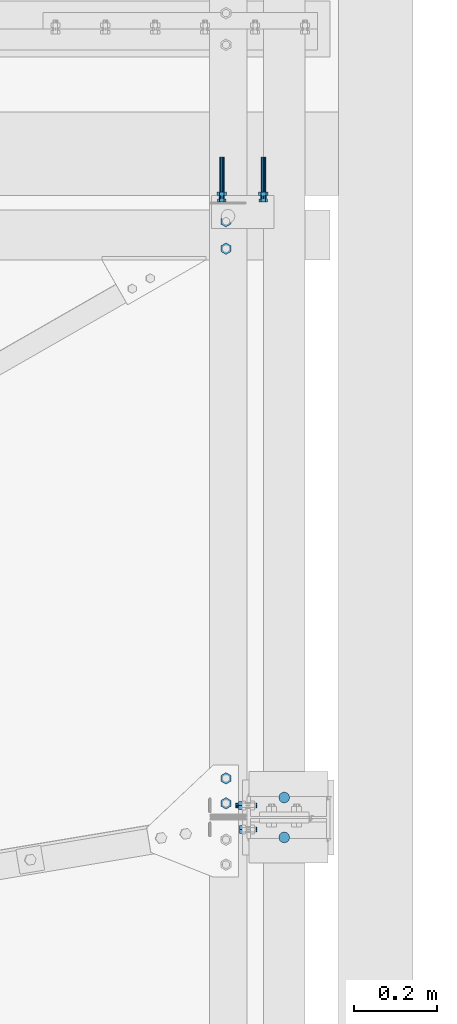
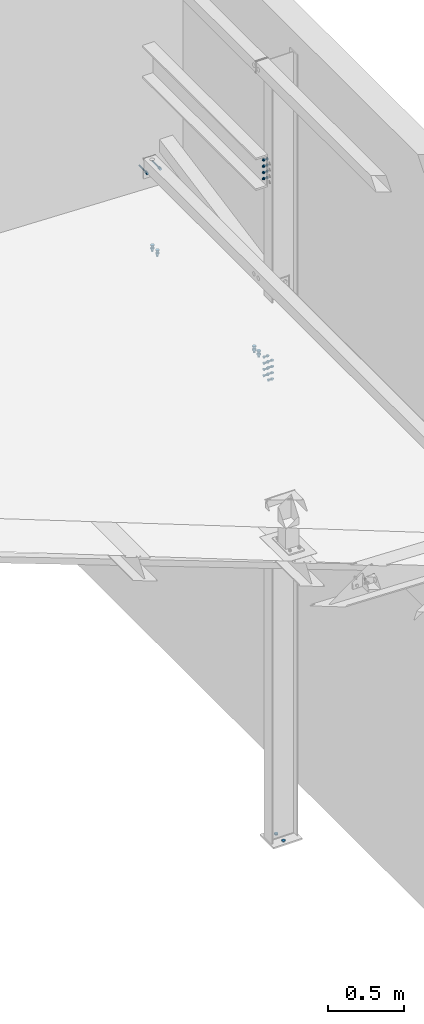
# One storey, part 398 of 3134: 7 mechanical fasteners, 3 elements without a shape of their own.
"""IFC2X3 building model written with IfcOpenShell, lengths in millimetres."""

from ifc_helpers import new_model, si_unit, frame, origin_with_axes, place, context, subcontext, project, spatial, faceted_brep, source, transform, mapped, material, type_object, element, aggregate, save


model = new_model("IFC2X3")

# Units and contexts
model_context = context("Model", 3, precision=1e-05, world=origin_with_axes())
body_context = subcontext(model_context, "Body", "Model", "MODEL_VIEW")
ifc_project = project(units=[si_unit("LENGTHUNIT", "METRE", prefix="MILLI"), si_unit("AREAUNIT", "SQUARE_METRE"), si_unit("VOLUMEUNIT", "CUBIC_METRE"), si_unit("MASSUNIT", "GRAM", prefix="KILO"), si_unit("TIMEUNIT", "SECOND"), si_unit("PLANEANGLEUNIT", "RADIAN"), si_unit("SOLIDANGLEUNIT", "STERADIAN"), si_unit("THERMODYNAMICTEMPERATUREUNIT", "DEGREE_CELSIUS"), si_unit("LUMINOUSINTENSITYUNIT", "LUMEN")], contexts=[model_context])

# Site, building, storey
site_placement = place(None, origin_with_axes())
site = spatial("IfcSite", under=ifc_project, at=site_placement, CompositionType="ELEMENT")
building_placement = place(site_placement, origin_with_axes())
building = spatial("IfcBuilding", under=site, at=building_placement, Name="Undefined", CompositionType="ELEMENT")
storey_placement = place(building_placement, origin_with_axes())
storey = spatial("IfcBuildingStorey", under=building, at=storey_placement, Name="Undefined", CompositionType="ELEMENT", Elevation=0.0)

# Assembly, mechanical fastener
assembly_1_placement = place(storey_placement, origin_with_axes())
assembly_1 = element("IfcElementAssembly", 1, at=assembly_1_placement, inside=storey, AssemblyPlace="NOTDEFINED", PredefinedType="RIGID_FRAME")
ifc_material_1 = material(Name="HILTI-HSA")
mechanical_fastener_type = type_object("IfcMechanicalFastenerType", Name="Bolt assembly")
shared_shape_1 = source(origin_with_axes(), body_context, "Body", "Brep", [
    faceted_brep([(10.3923048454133, -15.92, 0.0), (5.19615242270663, -15.92, 9.0), (-5.19615242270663, -15.92, 9.0), (-10.3923048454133, -15.92, 1.27269028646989e-15), (-5.19615242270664, -15.92, -9.0), (5.19615242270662, -15.92, -9.0), (5.19615242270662, -8.0, -9.0), (-5.19615242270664, -8.0, -9.0), (-10.3923048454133, -8.0, 1.27269028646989e-15), (-5.19615242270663, -8.0, 9.0), (5.19615242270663, -8.0, 9.0), (10.3923048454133, -8.0, 0.0), (6.0, -8.0, 0.0), (5.19615242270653, -8.0, 3.00000000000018), (2.99999999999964, -8.0, 5.19615242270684), (-6.21801588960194e-13, -8.0, 6.0), (-3.00000000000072, -8.0, 5.19615242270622), (-5.19615242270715, -8.0, 2.9999999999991), (-6.0, -8.0, -1.24360317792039e-12), (-5.19615242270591, -8.0, -3.00000000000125), (-2.99999999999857, -8.0, -5.19615242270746), (1.85874342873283e-12, -8.0, -6.0), (3.00000000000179, -8.0, -5.1961524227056), (5.19615242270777, -8.0, -2.99999999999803), (5.19615242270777, 92.0, -2.99999999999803), (3.00000000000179, 92.0, -5.1961524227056), (1.85874342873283e-12, 92.0, -6.0), (-2.99999999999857, 92.0, -5.19615242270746), (-5.19615242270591, 92.0, -3.00000000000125), (-6.0, 92.0, -1.24360317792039e-12), (-5.19615242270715, 92.0, 2.9999999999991), (-3.00000000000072, 92.0, 5.19615242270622), (-6.21801588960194e-13, 92.0, 6.0), (2.99999999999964, 92.0, 5.19615242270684), (5.19615242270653, 92.0, 3.00000000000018), (6.0, 92.0, 0.0), (11.5008173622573, 0.0, 0.0), (5.75040868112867, 0.0, 9.96), (-5.75040868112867, 0.0, 9.96), (-11.5008173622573, 0.0, 1.40844391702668e-15), (-5.75040868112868, 0.0, -9.96), (5.75040868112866, 0.0, -9.96), (5.75040868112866, 7.92, -9.96), (-5.75040868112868, 7.92, -9.96), (-11.5008173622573, 7.92, 1.40844391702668e-15), (-5.75040868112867, 7.92, 9.96), (5.75040868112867, 7.92, 9.96), (11.5008173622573, 7.92, 0.0)], [[[0, 1, 2, 3, 4, 5]], [[6, 7, 8, 9, 10, 11]], [[0, 11, 10, 1]], [[1, 10, 9, 2]], [[2, 9, 8, 3]], [[3, 8, 7, 4]], [[4, 7, 6, 5]], [[5, 6, 11, 0]], [[12, 13, 14, 15, 16, 17, 18, 19, 20, 21, 22, 23]], [[24, 25, 26, 27, 28, 29, 30, 31, 32, 33, 34, 35]], [[12, 35, 34, 13]], [[13, 34, 33, 14]], [[14, 33, 32, 15]], [[15, 32, 31, 16]], [[16, 31, 30, 17]], [[17, 30, 29, 18]], [[18, 29, 28, 19]], [[19, 28, 27, 20]], [[20, 27, 26, 21]], [[21, 26, 25, 22]], [[22, 25, 24, 23]], [[23, 24, 35, 12]], [[36, 37, 38, 39, 40, 41]], [[42, 43, 44, 45, 46, 47]], [[36, 47, 46, 37]], [[37, 46, 45, 38]], [[38, 45, 44, 39]], [[39, 44, 43, 40]], [[40, 43, 42, 41]], [[41, 42, 47, 36]]]),
    faceted_brep([(7.0, -8.0, 0.0), (6.06217782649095, -8.0, 3.50000000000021), (3.49999999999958, -8.0, 6.06217782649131), (-7.25435187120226e-13, -8.0, 7.0), (-3.50000000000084, -8.0, 6.06217782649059), (-6.06217782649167, -8.0, 3.49999999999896), (-7.0, -8.0, -1.45087037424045e-12), (-6.06217782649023, -8.0, -3.50000000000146), (-3.49999999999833, -8.0, -6.06217782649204), (2.1685340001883e-12, -8.0, -7.0), (3.50000000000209, -8.0, -6.06217782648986), (6.0621778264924, -8.0, -3.4999999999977), (6.0621778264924, 0.0999999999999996, -3.4999999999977), (3.50000000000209, 0.0999999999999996, -6.06217782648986), (2.1685340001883e-12, 0.0999999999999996, -7.0), (-3.49999999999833, 0.0999999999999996, -6.06217782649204), (-6.06217782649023, 0.0999999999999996, -3.50000000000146), (-7.0, 0.0999999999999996, -1.45087037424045e-12), (-6.06217782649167, 0.0999999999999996, 3.49999999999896), (-3.50000000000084, 0.0999999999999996, 6.06217782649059), (-7.25435187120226e-13, 0.0999999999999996, 7.0), (3.49999999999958, 0.0999999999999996, 6.06217782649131), (6.06217782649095, 0.0999999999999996, 3.50000000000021), (7.0, 0.0999999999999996, 0.0)], [[[0, 1, 2, 3, 4, 5, 6, 7, 8, 9, 10, 11]], [[12, 13, 14, 15, 16, 17, 18, 19, 20, 21, 22, 23]], [[0, 23, 22, 1]], [[1, 22, 21, 2]], [[2, 21, 20, 3]], [[3, 20, 19, 4]], [[4, 19, 18, 5]], [[5, 18, 17, 6]], [[6, 17, 16, 7]], [[7, 16, 15, 8]], [[8, 15, 14, 9]], [[9, 14, 13, 10]], [[10, 13, 12, 11]], [[11, 12, 23, 0]]]),
])
mechanical_fastener_1_placement = place(assembly_1_placement, frame((79075.0, 26145.0, 4086.04), z_axis=(0.0, 0.0, 1.0), x_axis=(1.0, 0.0, 0.0)))
mechanical_fastener_1 = element("IfcMechanicalFastener", 2, at=mechanical_fastener_1_placement, type_object=mechanical_fastener_type, material=ifc_material_1, Name="Bolt assembly", NominalDiameter=12.0, NominalLength=100.0, context=body_context, shape_type="MappedRepresentation", body=[
    mapped(shared_shape_1, transform((0.0, 0.0, 0.0))),
    mapped(shared_shape_1, transform((100.0, 0.0, 0.0))),
])
aggregate(assembly_1, [mechanical_fastener_1])

# Assembly, mechanical fasteners
assembly_2_placement = place(storey_placement, origin_with_axes())
assembly_2 = element("IfcElementAssembly", 3, at=assembly_2_placement, inside=storey, Name="IPE200", AssemblyPlace="NOTDEFINED", PredefinedType="RIGID_FRAME")
ifc_material_2 = material(Name="8.8")
shared_shape_2 = source(origin_with_axes(), body_context, "Body", "Brep", [
    faceted_brep([(13.0, 0.0, 0.0), (11.2583302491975, 0.0, 6.50000000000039), (6.49999999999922, 0.0, 11.2583302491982), (-1.34723677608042e-12, 0.0, 13.0), (-6.50000000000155, 0.0, 11.2583302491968), (-11.2583302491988, 0.0, 6.49999999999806), (-13.0, 0.0, -2.69447355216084e-12), (-11.2583302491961, 0.0, -6.50000000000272), (-6.4999999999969, 0.0, -11.2583302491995), (4.02727742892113e-12, 0.0, -13.0), (6.50000000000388, 0.0, -11.2583302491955), (11.2583302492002, 0.0, -6.49999999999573), (11.2583302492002, 12.1, -6.49999999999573), (6.50000000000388, 12.1, -11.2583302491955), (4.02727742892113e-12, 12.1, -13.0), (-6.4999999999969, 12.1, -11.2583302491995), (-11.2583302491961, 12.1, -6.50000000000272), (-13.0, 12.1, -2.69447355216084e-12), (-11.2583302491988, 12.1, 6.49999999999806), (-6.50000000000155, 12.1, 11.2583302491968), (-1.34723677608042e-12, 12.1, 13.0), (6.49999999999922, 12.1, 11.2583302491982), (11.2583302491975, 12.1, 6.50000000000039), (13.0, 12.1, 0.0)], [[[0, 1, 2, 3, 4, 5, 6, 7, 8, 9, 10, 11]], [[12, 13, 14, 15, 16, 17, 18, 19, 20, 21, 22, 23]], [[0, 23, 22, 1]], [[1, 22, 21, 2]], [[2, 21, 20, 3]], [[3, 20, 19, 4]], [[4, 19, 18, 5]], [[5, 18, 17, 6]], [[6, 17, 16, 7]], [[7, 16, 15, 8]], [[8, 15, 14, 9]], [[9, 14, 13, 10]], [[10, 13, 12, 11]], [[11, 12, 23, 0]]]),
])
mechanical_fastener_2_placement = place(assembly_2_placement, frame((79225.0, 24650.0, -400.0), z_axis=(0.0, -1.0, 0.0), x_axis=(1.0, 0.0, 0.0)))
mechanical_fastener_2 = element("IfcMechanicalFastener", 4, at=mechanical_fastener_2_placement, type_object=mechanical_fastener_type, material=ifc_material_2, Name="Bolt assembly", NominalDiameter=24.0, NominalLength=12.0, context=body_context, shape_type="MappedRepresentation", body=[
    mapped(shared_shape_2, transform((0.0, 0.0, -48.0))),
    mapped(shared_shape_2, transform((0.0, 0.0, 48.0))),
])
shared_shape_3 = source(origin_with_axes(), body_context, "Body", "Brep", [
    faceted_brep([(10.9696551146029, -16.5, 0.0), (5.48482755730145, -16.5, 9.5), (-5.48482755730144, -16.5, 9.5), (-10.9696551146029, -16.5, 1.34339530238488e-15), (-5.48482755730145, -16.5, -9.5), (5.48482755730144, -16.5, -9.50000000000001), (5.48482755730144, -8.5, -9.50000000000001), (-5.48482755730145, -8.5, -9.5), (-10.9696551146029, -8.5, 1.34339530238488e-15), (-5.48482755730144, -8.5, 9.5), (5.48482755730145, -8.5, 9.5), (10.9696551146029, -8.5, 0.0), (6.0, -8.5, 0.0), (5.19615242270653, -8.5, 3.00000000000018), (2.99999999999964, -8.5, 5.19615242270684), (-6.21801588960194e-13, -8.5, 6.0), (-3.00000000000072, -8.5, 5.19615242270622), (-5.19615242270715, -8.5, 2.9999999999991), (-6.0, -8.5, -1.24360317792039e-12), (-5.19615242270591, -8.5, -3.00000000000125), (-2.99999999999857, -8.5, -5.19615242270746), (1.85874342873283e-12, -8.5, -6.0), (3.00000000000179, -8.5, -5.1961524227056), (5.19615242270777, -8.5, -2.99999999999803), (5.19615242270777, 26.5, -2.99999999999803), (3.00000000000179, 26.5, -5.1961524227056), (1.85874342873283e-12, 26.5, -6.0), (-2.99999999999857, 26.5, -5.19615242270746), (-5.19615242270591, 26.5, -3.00000000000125), (-6.0, 26.5, -1.24360317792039e-12), (-5.19615242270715, 26.5, 2.9999999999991), (-3.00000000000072, 26.5, 5.19615242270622), (-6.21801588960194e-13, 26.5, 6.0), (2.99999999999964, 26.5, 5.19615242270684), (5.19615242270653, 26.5, 3.00000000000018), (6.0, 26.5, 0.0), (10.9696551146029, 10.0, 0.0), (5.48482755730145, 10.0, 9.5), (-5.48482755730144, 10.0, 9.5), (-10.9696551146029, 10.0, 1.34339530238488e-15), (-5.48482755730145, 10.0, -9.5), (5.48482755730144, 10.0, -9.50000000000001), (5.48482755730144, 20.0, -9.50000000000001), (-5.48482755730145, 20.0, -9.5), (-10.9696551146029, 20.0, 1.34339530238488e-15), (-5.48482755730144, 20.0, 9.5), (5.48482755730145, 20.0, 9.5), (10.9696551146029, 20.0, 0.0)], [[[0, 1, 2, 3, 4, 5]], [[6, 7, 8, 9, 10, 11]], [[0, 11, 10, 1]], [[1, 10, 9, 2]], [[2, 9, 8, 3]], [[3, 8, 7, 4]], [[4, 7, 6, 5]], [[5, 6, 11, 0]], [[12, 13, 14, 15, 16, 17, 18, 19, 20, 21, 22, 23]], [[24, 25, 26, 27, 28, 29, 30, 31, 32, 33, 34, 35]], [[12, 35, 34, 13]], [[13, 34, 33, 14]], [[14, 33, 32, 15]], [[15, 32, 31, 16]], [[16, 31, 30, 17]], [[17, 30, 29, 18]], [[18, 29, 28, 19]], [[19, 28, 27, 20]], [[20, 27, 26, 21]], [[21, 26, 25, 22]], [[22, 25, 24, 23]], [[23, 24, 35, 12]], [[36, 37, 38, 39, 40, 41]], [[42, 43, 44, 45, 46, 47]], [[36, 47, 46, 37]], [[37, 46, 45, 38]], [[38, 45, 44, 39]], [[39, 44, 43, 40]], [[40, 43, 42, 41]], [[41, 42, 47, 36]]]),
    faceted_brep([(7.0, -0.1, 0.0), (6.06217782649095, -0.1, 3.50000000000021), (3.49999999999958, -0.1, 6.06217782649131), (-7.25435187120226e-13, -0.1, 7.0), (-3.50000000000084, -0.1, 6.06217782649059), (-6.06217782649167, -0.1, 3.49999999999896), (-7.0, -0.1, -1.45087037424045e-12), (-6.06217782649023, -0.1, -3.50000000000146), (-3.49999999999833, -0.1, -6.06217782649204), (2.1685340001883e-12, -0.1, -7.0), (3.50000000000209, -0.1, -6.06217782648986), (6.0621778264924, -0.1, -3.4999999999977), (6.0621778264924, 10.0, -3.4999999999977), (3.50000000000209, 10.0, -6.06217782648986), (2.1685340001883e-12, 10.0, -7.0), (-3.49999999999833, 10.0, -6.06217782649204), (-6.06217782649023, 10.0, -3.50000000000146), (-7.0, 10.0, -1.45087037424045e-12), (-6.06217782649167, 10.0, 3.49999999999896), (-3.50000000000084, 10.0, 6.06217782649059), (-7.25435187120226e-13, 10.0, 7.0), (3.49999999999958, 10.0, 6.06217782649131), (6.06217782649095, 10.0, 3.50000000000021), (7.0, 10.0, 0.0), (7.0, -8.4, 0.0), (6.06217782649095, -8.4, 3.50000000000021), (3.49999999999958, -8.4, 6.06217782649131), (-7.25435187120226e-13, -8.4, 7.0), (-3.50000000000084, -8.4, 6.06217782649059), (-6.06217782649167, -8.4, 3.49999999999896), (-7.0, -8.4, -1.45087037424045e-12), (-6.06217782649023, -8.4, -3.50000000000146), (-3.49999999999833, -8.4, -6.06217782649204), (2.1685340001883e-12, -8.4, -7.0), (3.50000000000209, -8.4, -6.06217782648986), (6.0621778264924, -8.4, -3.4999999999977), (6.0621778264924, 0.0999999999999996, -3.4999999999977), (3.50000000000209, 0.0999999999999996, -6.06217782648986), (2.1685340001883e-12, 0.0999999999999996, -7.0), (-3.49999999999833, 0.0999999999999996, -6.06217782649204), (-6.06217782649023, 0.0999999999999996, -3.50000000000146), (-7.0, 0.0999999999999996, -1.45087037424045e-12), (-6.06217782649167, 0.0999999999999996, 3.49999999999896), (-3.50000000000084, 0.0999999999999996, 6.06217782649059), (-7.25435187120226e-13, 0.0999999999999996, 7.0), (3.49999999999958, 0.0999999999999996, 6.06217782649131), (6.06217782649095, 0.0999999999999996, 3.50000000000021), (7.0, 0.0999999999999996, 0.0)], [[[0, 1, 2, 3, 4, 5, 6, 7, 8, 9, 10, 11]], [[12, 13, 14, 15, 16, 17, 18, 19, 20, 21, 22, 23]], [[0, 23, 22, 1]], [[1, 22, 21, 2]], [[2, 21, 20, 3]], [[3, 20, 19, 4]], [[4, 19, 18, 5]], [[5, 18, 17, 6]], [[6, 17, 16, 7]], [[7, 16, 15, 8]], [[8, 15, 14, 9]], [[9, 14, 13, 10]], [[10, 13, 12, 11]], [[11, 12, 23, 0]], [[24, 25, 26, 27, 28, 29, 30, 31, 32, 33, 34, 35]], [[36, 37, 38, 39, 40, 41, 42, 43, 44, 45, 46, 47]], [[24, 47, 46, 25]], [[25, 46, 45, 26]], [[26, 45, 44, 27]], [[27, 44, 43, 28]], [[28, 43, 42, 29]], [[29, 42, 41, 30]], [[30, 41, 40, 31]], [[31, 40, 39, 32]], [[32, 39, 38, 33]], [[33, 38, 37, 34]], [[34, 37, 36, 35]], [[35, 36, 47, 24]]]),
])
mechanical_fastener_3_placement = place(assembly_2_placement, frame((79135.0, 24679.0, 5059.384809), z_axis=(0.0, 1.0, 0.0), x_axis=(0.0, 0.0, -1.0)))
mechanical_fastener_3 = element("IfcMechanicalFastener", 5, at=mechanical_fastener_3_placement, type_object=mechanical_fastener_type, material=ifc_material_2, Name="Bolt assembly", NominalDiameter=12.0, NominalLength=35.0, context=body_context, shape_type="MappedRepresentation", body=[
    mapped(shared_shape_3, transform((0.0, 0.0, 0.0))),
    mapped(shared_shape_3, transform((50.000000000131, -1.38243194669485e-10, 0.0))),
    mapped(shared_shape_3, transform((100.0, 0.0, 0.0))),
    mapped(shared_shape_3, transform((150.0, 0.0, 0.0))),
])

assembly_3_placement = place(storey_placement, origin_with_axes())
assembly_3 = element("IfcElementAssembly", 6, at=assembly_3_placement, inside=storey, Name="UPN260", AssemblyPlace="NOTDEFINED", PredefinedType="RIGID_FRAME")
shared_shape_4 = source(origin_with_axes(), body_context, "Body", "Brep", [
    faceted_brep([(13.856406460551, -10.0, 0.0), (6.92820323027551, -10.0, 12.0), (-6.92820323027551, -10.0, 12.0), (-13.856406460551, -10.0, 1.69692038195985e-15), (-6.92820323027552, -10.0, -12.0), (6.9282032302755, -10.0, -12.0), (6.9282032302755, 0.0, -12.0), (-6.92820323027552, 0.0, -12.0), (-13.856406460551, 0.0, 1.69692038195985e-15), (-6.92820323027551, 0.0, 12.0), (6.92820323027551, 0.0, 12.0), (13.856406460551, 0.0, 0.0), (8.0, 0.0, 0.0), (6.92820323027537, 0.0, 4.00000000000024), (3.99999999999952, 0.0, 6.92820323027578), (-8.29068785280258e-13, 0.0, 8.0), (-4.00000000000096, 0.0, 6.92820323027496), (-6.9282032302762, 0.0, 3.99999999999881), (-8.0, 0.0, -1.65813757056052e-12), (-6.92820323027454, 0.0, -4.00000000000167), (-3.99999999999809, 0.0, -6.92820323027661), (2.47832457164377e-12, 0.0, -8.0), (4.00000000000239, 0.0, -6.92820323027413), (6.92820323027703, 0.0, -3.99999999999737), (6.92820323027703, 45.0, -3.99999999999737), (4.00000000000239, 45.0, -6.92820323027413), (2.47832457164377e-12, 45.0, -8.0), (-3.99999999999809, 45.0, -6.92820323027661), (-6.92820323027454, 45.0, -4.00000000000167), (-8.0, 45.0, -1.65813757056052e-12), (-6.9282032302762, 45.0, 3.99999999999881), (-4.00000000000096, 45.0, 6.92820323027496), (-8.29068785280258e-13, 45.0, 8.0), (3.99999999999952, 45.0, 6.92820323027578), (6.92820323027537, 45.0, 4.00000000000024), (8.0, 45.0, 0.0), (13.856406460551, 13.9999999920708, 0.0), (6.92820323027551, 13.9999999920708, 12.0), (-6.92820323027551, 13.9999999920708, 12.0), (-13.856406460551, 13.9999999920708, 1.69692038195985e-15), (-6.92820323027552, 13.9999999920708, -12.0), (6.9282032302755, 13.9999999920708, -12.0), (6.9282032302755, 27.0, -12.0), (-6.92820323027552, 27.0, -12.0), (-13.856406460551, 27.0, 1.69692038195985e-15), (-6.92820323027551, 27.0, 12.0), (6.92820323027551, 27.0, 12.0), (13.856406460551, 27.0, 0.0)], [[[0, 1, 2, 3, 4, 5]], [[6, 7, 8, 9, 10, 11]], [[0, 11, 10, 1]], [[1, 10, 9, 2]], [[2, 9, 8, 3]], [[3, 8, 7, 4]], [[4, 7, 6, 5]], [[5, 6, 11, 0]], [[12, 13, 14, 15, 16, 17, 18, 19, 20, 21, 22, 23]], [[24, 25, 26, 27, 28, 29, 30, 31, 32, 33, 34, 35]], [[12, 35, 34, 13]], [[13, 34, 33, 14]], [[14, 33, 32, 15]], [[15, 32, 31, 16]], [[16, 31, 30, 17]], [[17, 30, 29, 18]], [[18, 29, 28, 19]], [[19, 28, 27, 20]], [[20, 27, 26, 21]], [[21, 26, 25, 22]], [[22, 25, 24, 23]], [[23, 24, 35, 12]], [[36, 37, 38, 39, 40, 41]], [[42, 43, 44, 45, 46, 47]], [[36, 47, 46, 37]], [[37, 46, 45, 38]], [[38, 45, 44, 39]], [[39, 44, 43, 40]], [[40, 43, 42, 41]], [[41, 42, 47, 36]]]),
    faceted_brep([(9.0, -3.46568413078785e-07, 0.0), (7.79422863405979, -3.46568413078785e-07, 4.50000000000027), (4.49999999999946, -3.46568413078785e-07, 7.79422863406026), (-9.3270238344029e-13, -3.46568413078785e-07, 9.0), (-4.50000000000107, -3.46568413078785e-07, 7.79422863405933), (-7.79422863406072, -3.46568413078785e-07, 4.49999999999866), (-9.0, -3.46568413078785e-07, -1.86540476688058e-12), (-7.79422863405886, -3.46568413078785e-07, -4.50000000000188), (-4.49999999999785, -3.46568413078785e-07, -7.79422863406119), (2.78811514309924e-12, -3.46568413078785e-07, -9.0), (4.50000000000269, -3.46568413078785e-07, -7.7942286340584), (7.79422863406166, -3.46568413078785e-07, -4.49999999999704), (7.79422863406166, 14.1000000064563, -4.49999999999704), (4.50000000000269, 14.1000000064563, -7.7942286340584), (2.78811514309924e-12, 14.1000000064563, -9.0), (-4.49999999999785, 14.1000000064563, -7.79422863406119), (-7.79422863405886, 14.1000000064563, -4.50000000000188), (-9.0, 14.1000000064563, -1.86540476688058e-12), (-7.79422863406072, 14.1000000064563, 4.49999999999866), (-4.50000000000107, 14.1000000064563, 7.79422863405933), (-9.3270238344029e-13, 14.1000000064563, 9.0), (4.49999999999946, 14.1000000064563, 7.79422863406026), (7.79422863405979, 14.1000000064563, 4.50000000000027), (9.0, 14.1000000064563, 0.0)], [[[0, 1, 2, 3, 4, 5, 6, 7, 8, 9, 10, 11]], [[12, 13, 14, 15, 16, 17, 18, 19, 20, 21, 22, 23]], [[0, 23, 22, 1]], [[1, 22, 21, 2]], [[2, 21, 20, 3]], [[3, 20, 19, 4]], [[4, 19, 18, 5]], [[5, 18, 17, 6]], [[6, 17, 16, 7]], [[7, 16, 15, 8]], [[8, 15, 14, 9]], [[9, 14, 13, 10]], [[10, 13, 12, 11]], [[11, 12, 23, 0]]]),
])
mechanical_fastener_4_placement = place(assembly_3_placement, frame((79085.0000000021, 24683.993333, 3532.96480900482), z_axis=(-0.99999999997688, 0.0, -6.80000067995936e-06), x_axis=(0.0, 1.0, 0.0)))
mechanical_fastener_4 = element("IfcMechanicalFastener", 7, at=mechanical_fastener_4_placement, type_object=mechanical_fastener_type, material=ifc_material_2, Name="Bolt assembly", NominalDiameter=16.0, NominalLength=45.0, context=body_context, shape_type="MappedRepresentation", body=[
    mapped(shared_shape_4, transform((0.0, 0.0, 0.0))),
    mapped(shared_shape_4, transform((59.9999999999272, 0.0, 5.40239852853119e-10))),
])
mechanical_fastener_5_placement = place(assembly_3_placement, frame((79085.0000000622, 26016.993333, 3532.9648090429), z_axis=(-0.99999999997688, 0.0, -6.80000067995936e-06), x_axis=(0.0, 1.0, 0.0)))
mechanical_fastener_5 = element("IfcMechanicalFastener", 8, at=mechanical_fastener_5_placement, type_object=mechanical_fastener_type, material=ifc_material_2, Name="Bolt assembly", NominalDiameter=16.0, NominalLength=45.0, context=body_context, shape_type="MappedRepresentation", body=[
    mapped(shared_shape_4, transform((0.0, 0.0, 0.0))),
    mapped(shared_shape_4, transform((66.0, 0.0, 0.0))),
])
aggregate(assembly_3, [mechanical_fastener_4, mechanical_fastener_5])

# Mechanical fastener
shared_shape_5 = source(origin_with_axes(), body_context, "Body", "Brep", [
    faceted_brep([(10.9696551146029, -18.0, 0.0), (5.48482755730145, -18.0, 9.5), (-5.48482755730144, -18.0, 9.5), (-10.9696551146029, -18.0, 1.34339530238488e-15), (-5.48482755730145, -18.0, -9.5), (5.48482755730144, -18.0, -9.50000000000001), (5.48482755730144, -10.0, -9.50000000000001), (-5.48482755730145, -10.0, -9.5), (-10.9696551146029, -10.0, 1.34339530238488e-15), (-5.48482755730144, -10.0, 9.5), (5.48482755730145, -10.0, 9.5), (10.9696551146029, -10.0, 0.0), (6.0, -10.0, 0.0), (5.19615242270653, -10.0, 3.00000000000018), (2.99999999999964, -10.0, 5.19615242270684), (-6.21801588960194e-13, -10.0, 6.0), (-3.00000000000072, -10.0, 5.19615242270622), (-5.19615242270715, -10.0, 2.9999999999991), (-6.0, -10.0, -1.24360317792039e-12), (-5.19615242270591, -10.0, -3.00000000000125), (-2.99999999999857, -10.0, -5.19615242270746), (1.85874342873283e-12, -10.0, -6.0), (3.00000000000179, -10.0, -5.1961524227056), (5.19615242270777, -10.0, -2.99999999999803), (5.19615242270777, 24.9999999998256, -2.99999999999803), (3.00000000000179, 24.9999999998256, -5.1961524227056), (1.85874342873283e-12, 24.9999999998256, -6.0), (-2.99999999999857, 24.9999999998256, -5.19615242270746), (-5.19615242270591, 24.9999999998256, -3.00000000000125), (-6.0, 24.9999999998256, -1.24360317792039e-12), (-5.19615242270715, 24.9999999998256, 2.9999999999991), (-3.00000000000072, 24.9999999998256, 5.19615242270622), (-6.21801588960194e-13, 24.9999999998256, 6.0), (2.99999999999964, 24.9999999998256, 5.19615242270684), (5.19615242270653, 24.9999999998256, 3.00000000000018), (6.0, 24.9999999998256, 0.0), (10.9696551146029, 8.5, 0.0), (5.48482755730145, 8.5, 9.5), (-5.48482755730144, 8.5, 9.5), (-10.9696551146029, 8.5, 1.34339530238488e-15), (-5.48482755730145, 8.5, -9.5), (5.48482755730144, 8.5, -9.50000000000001), (5.48482755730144, 18.5, -9.50000000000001), (-5.48482755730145, 18.5, -9.5), (-10.9696551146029, 18.5, 1.34339530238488e-15), (-5.48482755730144, 18.5, 9.5), (5.48482755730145, 18.5, 9.5), (10.9696551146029, 18.5, 0.0)], [[[0, 1, 2, 3, 4, 5]], [[6, 7, 8, 9, 10, 11]], [[0, 11, 10, 1]], [[1, 10, 9, 2]], [[2, 9, 8, 3]], [[3, 8, 7, 4]], [[4, 7, 6, 5]], [[5, 6, 11, 0]], [[12, 13, 14, 15, 16, 17, 18, 19, 20, 21, 22, 23]], [[24, 25, 26, 27, 28, 29, 30, 31, 32, 33, 34, 35]], [[12, 35, 34, 13]], [[13, 34, 33, 14]], [[14, 33, 32, 15]], [[15, 32, 31, 16]], [[16, 31, 30, 17]], [[17, 30, 29, 18]], [[18, 29, 28, 19]], [[19, 28, 27, 20]], [[20, 27, 26, 21]], [[21, 26, 25, 22]], [[22, 25, 24, 23]], [[23, 24, 35, 12]], [[36, 37, 38, 39, 40, 41]], [[42, 43, 44, 45, 46, 47]], [[36, 47, 46, 37]], [[37, 46, 45, 38]], [[38, 45, 44, 39]], [[39, 44, 43, 40]], [[40, 43, 42, 41]], [[41, 42, 47, 36]]]),
    faceted_brep([(7.0, -9.89999913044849, 0.0), (6.06217782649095, -9.89999913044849, 3.50000000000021), (3.49999999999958, -9.89999913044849, 6.06217782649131), (-7.25435187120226e-13, -9.89999913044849, 7.0), (-3.50000000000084, -9.89999913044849, 6.06217782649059), (-6.06217782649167, -9.89999913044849, 3.49999999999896), (-7.0, -9.89999913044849, -1.45087037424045e-12), (-6.06217782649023, -9.89999913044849, -3.50000000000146), (-3.49999999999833, -9.89999913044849, -6.06217782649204), (2.1685340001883e-12, -9.89999913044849, -7.0), (3.50000000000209, -9.89999913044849, -6.06217782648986), (6.0621778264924, -9.89999913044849, -3.4999999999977), (6.0621778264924, 0.0999999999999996, -3.4999999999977), (3.50000000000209, 0.0999999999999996, -6.06217782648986), (2.1685340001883e-12, 0.0999999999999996, -7.0), (-3.49999999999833, 0.0999999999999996, -6.06217782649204), (-6.06217782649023, 0.0999999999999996, -3.50000000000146), (-7.0, 0.0999999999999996, -1.45087037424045e-12), (-6.06217782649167, 0.0999999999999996, 3.49999999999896), (-3.50000000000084, 0.0999999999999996, 6.06217782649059), (-7.25435187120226e-13, 0.0999999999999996, 7.0), (3.49999999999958, 0.0999999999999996, 6.06217782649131), (6.06217782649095, 0.0999999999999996, 3.50000000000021), (7.0, 0.0999999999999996, 0.0), (7.0, -0.1, 0.0), (6.06217782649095, -0.1, 3.50000000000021), (3.49999999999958, -0.1, 6.06217782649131), (-7.25435187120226e-13, -0.1, 7.0), (-3.50000000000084, -0.1, 6.06217782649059), (-6.06217782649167, -0.1, 3.49999999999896), (-7.0, -0.1, -1.45087037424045e-12), (-6.06217782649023, -0.1, -3.50000000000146), (-3.49999999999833, -0.1, -6.06217782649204), (2.1685340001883e-12, -0.1, -7.0), (3.50000000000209, -0.1, -6.06217782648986), (6.0621778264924, -0.1, -3.4999999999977), (6.0621778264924, 8.5, -3.4999999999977), (3.50000000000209, 8.5, -6.06217782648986), (2.1685340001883e-12, 8.5, -7.0), (-3.49999999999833, 8.5, -6.06217782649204), (-6.06217782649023, 8.5, -3.50000000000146), (-7.0, 8.5, -1.45087037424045e-12), (-6.06217782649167, 8.5, 3.49999999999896), (-3.50000000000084, 8.5, 6.06217782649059), (-7.25435187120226e-13, 8.5, 7.0), (3.49999999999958, 8.5, 6.06217782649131), (6.06217782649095, 8.5, 3.50000000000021), (7.0, 8.5, 0.0)], [[[0, 1, 2, 3, 4, 5, 6, 7, 8, 9, 10, 11]], [[12, 13, 14, 15, 16, 17, 18, 19, 20, 21, 22, 23]], [[0, 23, 22, 1]], [[1, 22, 21, 2]], [[2, 21, 20, 3]], [[3, 20, 19, 4]], [[4, 19, 18, 5]], [[5, 18, 17, 6]], [[6, 17, 16, 7]], [[7, 16, 15, 8]], [[8, 15, 14, 9]], [[9, 14, 13, 10]], [[10, 13, 12, 11]], [[11, 12, 23, 0]], [[24, 25, 26, 27, 28, 29, 30, 31, 32, 33, 34, 35]], [[36, 37, 38, 39, 40, 41, 42, 43, 44, 45, 46, 47]], [[24, 47, 46, 25]], [[25, 46, 45, 26]], [[26, 45, 44, 27]], [[27, 44, 43, 28]], [[28, 43, 42, 29]], [[29, 42, 41, 30]], [[30, 41, 40, 31]], [[31, 40, 39, 32]], [[32, 39, 38, 33]], [[33, 38, 37, 34]], [[34, 37, 36, 35]], [[35, 36, 47, 24]]]),
])
mechanical_fastener_6_placement = place(assembly_2_placement, frame((79135.0, 24679.0, 3327.964809), z_axis=(0.0, 1.0, 0.0), x_axis=(0.0, 0.0, 1.0)))
mechanical_fastener_6 = element("IfcMechanicalFastener", 9, at=mechanical_fastener_6_placement, type_object=mechanical_fastener_type, material=ifc_material_2, Name="Bolt assembly", NominalDiameter=12.0, NominalLength=35.0, context=body_context, shape_type="MappedRepresentation", body=[
    mapped(shared_shape_5, transform((0.0, 0.0, 0.0))),
    mapped(shared_shape_5, transform((50.000000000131, -1.38243194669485e-10, 0.0))),
    mapped(shared_shape_5, transform((100.0, 0.0, 0.0))),
    mapped(shared_shape_5, transform((150.0, 0.0, 0.0))),
])

mechanical_fastener_7_placement = place(assembly_2_placement, frame((79135.0, 24621.0, 3327.964809), z_axis=(0.0, 1.0, 0.0), x_axis=(0.0, 0.0, 1.0)))
mechanical_fastener_7 = element("IfcMechanicalFastener", 10, at=mechanical_fastener_7_placement, type_object=mechanical_fastener_type, material=ifc_material_2, Name="Bolt assembly", NominalDiameter=12.0, NominalLength=35.0, context=body_context, shape_type="MappedRepresentation", body=[
    mapped(shared_shape_5, transform((0.0, 0.0, 0.0))),
    mapped(shared_shape_5, transform((50.000000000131, -1.38243194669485e-10, 0.0))),
    mapped(shared_shape_5, transform((100.0, 0.0, 0.0))),
    mapped(shared_shape_5, transform((150.0, 0.0, 0.0))),
])

aggregate(assembly_2, [mechanical_fastener_3, mechanical_fastener_6, mechanical_fastener_7, mechanical_fastener_2])

save(model, "model.ifc")
